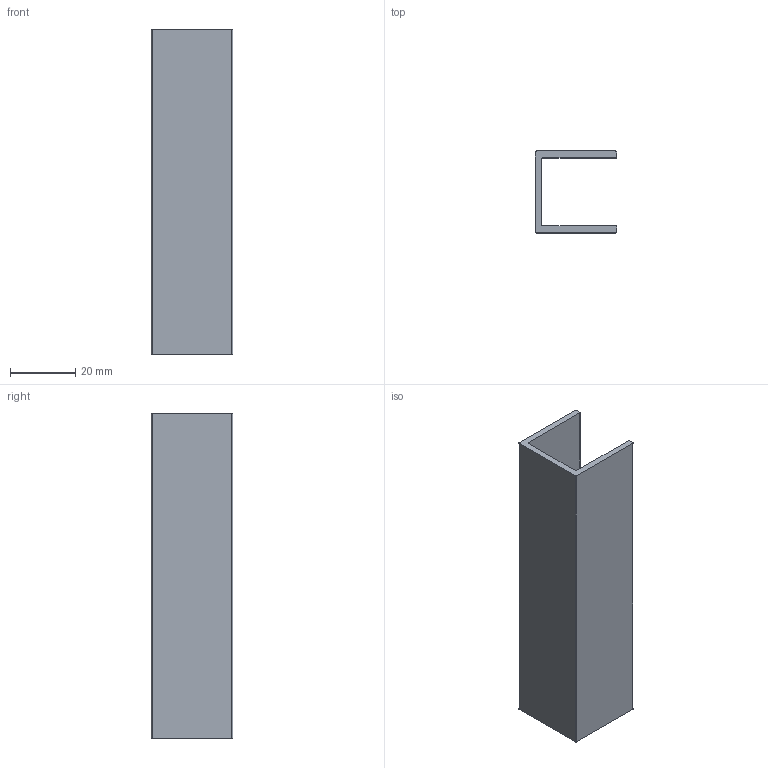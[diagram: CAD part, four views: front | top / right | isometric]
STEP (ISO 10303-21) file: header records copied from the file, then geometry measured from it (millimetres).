
FILE_DESCRIPTION (( 'STEP AP203' ), '1' );
FILE_NAME ('ƒ`ƒƒƒ“ƒlƒ‹.STEP', '2020-11-02T06:59:04', ( '' ), ( '' ), 'SwSTEP 2.0', 'SolidWorks 2017', '' );
FILE_SCHEMA (( 'CONFIG_CONTROL_DESIGN' ));
Length unit declared in the file: millimetre
Products named in the file (1): チャンネル
Bounding box: 25 x 25 x 100 mm (x, y, z)
Volume: 14192.3 mm3; surface area: 14780.8 mm2
Topology: 1 solids, 1 shells, 18 faces, 48 edges, 32 vertices
Faces by surface type: plane 10, cylinder 8
Entity records: 645 total; most frequent: DIRECTION 102, CARTESIAN_POINT 99, ORIENTED_EDGE 96, EDGE_CURVE 48, AXIS2_PLACEMENT_3D 35, VECTOR 32, LINE 32, VERTEX_POINT 32
